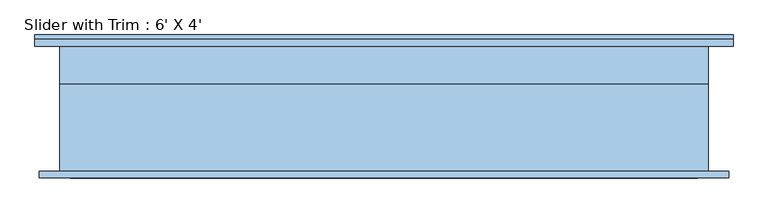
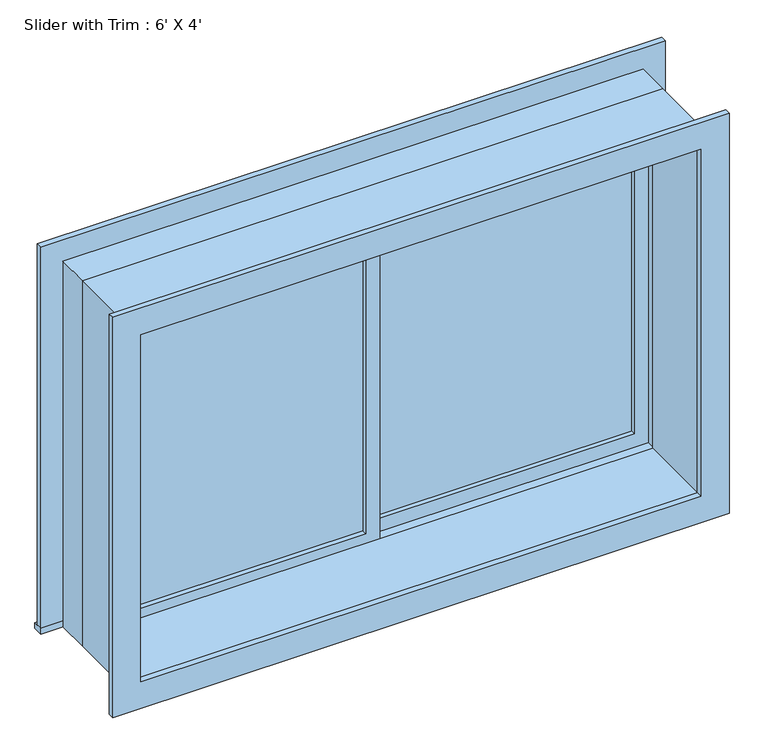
"""IFC4 building model written with IfcOpenShell, lengths in millimetres: window geometry, Slider with Trim : 6' X 4'."""

from ifc_helpers import new_model, si_unit, frame, origin, place, context, project, spatial, polyline, outline, extrude, source, transform, mapped, element, save


def slider_with_trim_6_x_4_a8a94e5b(model_context):
    return source(origin(), model_context, "Body", "SweptSolid", [
        extrude(outline(polyline([(-850.9, 96.8375), (-22.225, 96.8375), (-22.225, 84.1375), (-850.9, 84.1375), (-850.9, 96.8375)])), frame((0.0, 0.0, 977.9), z_axis=(0.0, 0.0, 1.0), x_axis=(1.0, 0.0, 0.0)), (0.0, 0.0, 1.0), 1092.2),
        extrude(outline(polyline([(2114.55, -895.35), (933.45, -895.35), (933.45, 22.225), (2114.55, 22.225), (2114.55, -895.35)]), holes=[polyline([(2070.1, -850.9), (2070.1, -22.225), (977.9, -22.225), (977.9, -850.9), (2070.1, -850.9)])]), frame((0.0, 68.2625, 0.0), z_axis=(0.0, 1.0, 0.0), x_axis=(0.0, 0.0, 1.0)), (0.0, 0.0, 1.0), 44.45),
        extrude(outline(polyline([(-984.25, 207.9625), (984.25, 207.9625), (984.25, 176.2125), (-984.25, 176.2125), (-984.25, 207.9625)])), frame((0.0, 0.0, 914.4), z_axis=(0.0, 0.0, 1.0), x_axis=(1.0, 0.0, 0.0)), (0.0, 0.0, 1.0), 19.05),
        extrude(outline(polyline([(2114.55, -895.35), (2114.55, 895.35), (933.45, 895.35), (933.45, 984.25), (2203.45, 984.25), (2203.45, -984.25), (933.45, -984.25), (933.45, -895.35), (2114.55, -895.35)])), frame((0.0, 176.2125, 0.0), z_axis=(0.0, 1.0, 0.0), x_axis=(0.0, 0.0, 1.0)), (0.0, 0.0, 1.0), 19.05),
        extrude(outline(polyline([(2190.75, 971.55), (2190.75, -971.55), (857.25, -971.55), (857.25, 971.55), (2190.75, 971.55)]), holes=[polyline([(2101.85, 882.65), (946.15, 882.65), (946.15, -882.65), (2101.85, -882.65), (2101.85, 882.65)])]), frame((0.0, -195.2625, 0.0), z_axis=(0.0, 1.0, 0.0), x_axis=(0.0, 0.0, 1.0)), (0.0, 0.0, 1.0), 19.05),
        extrude(outline(polyline([(850.9, 128.5875), (22.225, 128.5875), (22.225, 141.2875), (850.9, 141.2875), (850.9, 128.5875)])), frame((0.0, 0.0, 977.9), z_axis=(0.0, 0.0, 1.0), x_axis=(1.0, 0.0, 0.0)), (0.0, 0.0, 1.0), 1092.2),
        extrude(outline(polyline([(2114.55, -22.225), (933.45, -22.225), (933.45, 895.35), (2114.55, 895.35), (2114.55, -22.225)]), holes=[polyline([(2070.1, 22.225), (2070.1, 850.9), (977.9, 850.9), (977.9, 22.225), (2070.1, 22.225)])]), frame((0.0, 112.7125, 0.0), z_axis=(0.0, 1.0, 0.0), x_axis=(0.0, 0.0, 1.0)), (0.0, 0.0, 1.0), 44.45),
        extrude(outline(polyline([(2133.6, -914.4), (914.4, -914.4), (914.4, 914.4), (2133.6, 914.4), (2133.6, -914.4)]), holes=[polyline([(2101.85, -882.65), (2101.85, 882.65), (946.15, 882.65), (946.15, -882.65), (2101.85, -882.65)])]), frame((0.0, -176.2125, 0.0), z_axis=(0.0, 1.0, 0.0), x_axis=(0.0, 0.0, 1.0)), (0.0, 0.0, 1.0), 244.475),
        extrude(outline(polyline([(2133.6, 914.4), (2133.6, -914.4), (914.4, -914.4), (914.4, 914.4), (2133.6, 914.4)]), holes=[polyline([(2114.55, 895.35), (933.45, 895.35), (933.45, -895.35), (2114.55, -895.35), (2114.55, 895.35)])]), frame((0.0, 68.2625, 0.0), z_axis=(0.0, 1.0, 0.0), x_axis=(0.0, 0.0, 1.0)), (0.0, 0.0, 1.0), 107.95),
    ])


if __name__ == "__main__":
    model = new_model("IFC4")
    model_context = context("Model", 3, world=origin())
    ifc_project = project(units=[si_unit("LENGTHUNIT", "METRE", prefix="MILLI")], contexts=[model_context])
    site = spatial("IfcSite", under=ifc_project)
    building = spatial("IfcBuilding", under=site)
    placement = place(None, origin())
    slider_with_trim_6_x_4_shape = slider_with_trim_6_x_4_a8a94e5b(model_context)
    element("IfcWindow", 1, ObjectType="Slider with Trim : 6' X 4'", at=placement, inside=building, context=model_context, shape_type="MappedRepresentation", body=[
        mapped(slider_with_trim_6_x_4_shape, transform((0.0, 0.0, 0.0), x_axis=(1.0, 0.0, 0.0), y_axis=(0.0, 1.0, 0.0), z_axis=(0.0, 0.0, 1.0))),
    ])
    save(model, "model.ifc")
